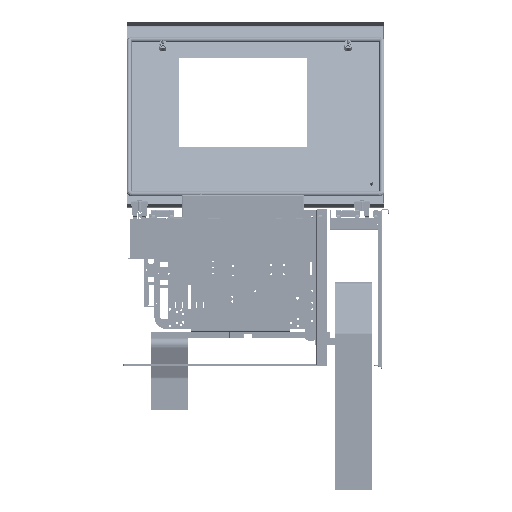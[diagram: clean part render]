
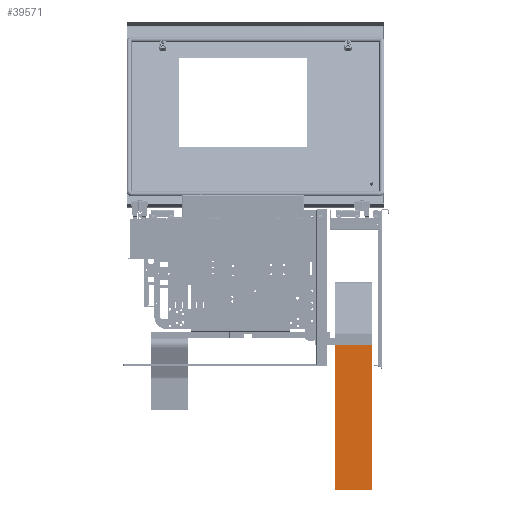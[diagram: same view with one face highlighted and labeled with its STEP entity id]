
A CAD part, left-side view. The second image highlights one B-rep face of the part: STEP entity #39571.
In plain terms, the highlighted planar face has unit normal (-1, 0, 0).
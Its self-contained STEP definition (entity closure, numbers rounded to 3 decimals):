
#38181=CARTESIAN_POINT(' ',(59.45,50.,-416.));
#38182=VERTEX_POINT(' ',#38181);
#38196=CARTESIAN_POINT(' ',(59.45,50.,-15.));
#38201=DIRECTION(' ',(0.,0.,-1.));
#38206=VECTOR(' ',#38201,1.);
#38211=LINE('',#38196,#38206);
#38216=CARTESIAN_POINT(' ',(59.45,50.,-15.));
#38217=VERTEX_POINT(' ',#38216);
#38221=EDGE_CURVE(' ',#38217,#38182,#38211,.T.);
#38346=CARTESIAN_POINT(' ',(59.45,-50.,-15.));
#38351=DIRECTION(' ',(0.,1.,0.));
#38356=VECTOR(' ',#38351,1.);
#38361=LINE('',#38346,#38356);
#38366=CARTESIAN_POINT(' ',(59.45,-50.,-15.));
#38367=VERTEX_POINT(' ',#38366);
#38371=EDGE_CURVE(' ',#38367,#38217,#38361,.T.);
#38581=CARTESIAN_POINT(' ',(59.45,-50.,-15.));
#38586=DIRECTION(' ',(0.,0.,-1.));
#38591=VECTOR(' ',#38586,1.);
#38596=LINE('',#38581,#38591);
#38601=CARTESIAN_POINT(' ',(59.45,-50.,-416.));
#38602=VERTEX_POINT(' ',#38601);
#38606=EDGE_CURVE(' ',#38367,#38602,#38596,.T.);
#39466=CARTESIAN_POINT(' ',(59.45,-50.,-416.));
#39471=DIRECTION(' ',(0.,1.,0.));
#39476=VECTOR(' ',#39471,1.);
#39481=LINE('',#39466,#39476);
#39486=EDGE_CURVE(' ',#38602,#38182,#39481,.T.);
#39516=DIRECTION(' ',(-1.,0.,0.));
#39521=CARTESIAN_POINT(' ',(59.45,-50.,-416.));
#39526=DIRECTION(' ',(0.,0.,1.));
#39531=AXIS2_PLACEMENT_3D(' ',#39521,#39516,#39526);
#39536=PLANE('NONE',#39531);
#39541=ORIENTED_EDGE(' ',*,*,#38606,.F.);
#39546=ORIENTED_EDGE(' ',*,*,#38371,.T.);
#39551=ORIENTED_EDGE(' ',*,*,#38221,.T.);
#39556=ORIENTED_EDGE(' ',*,*,#39486,.F.);
#39561=EDGE_LOOP(' ',(#39541,#39546,#39551,#39556));
#39566=FACE_OUTER_BOUND(' ',#39561,.T.);
#39571=ADVANCED_FACE('NONE',(#39566),#39536,.T.);
